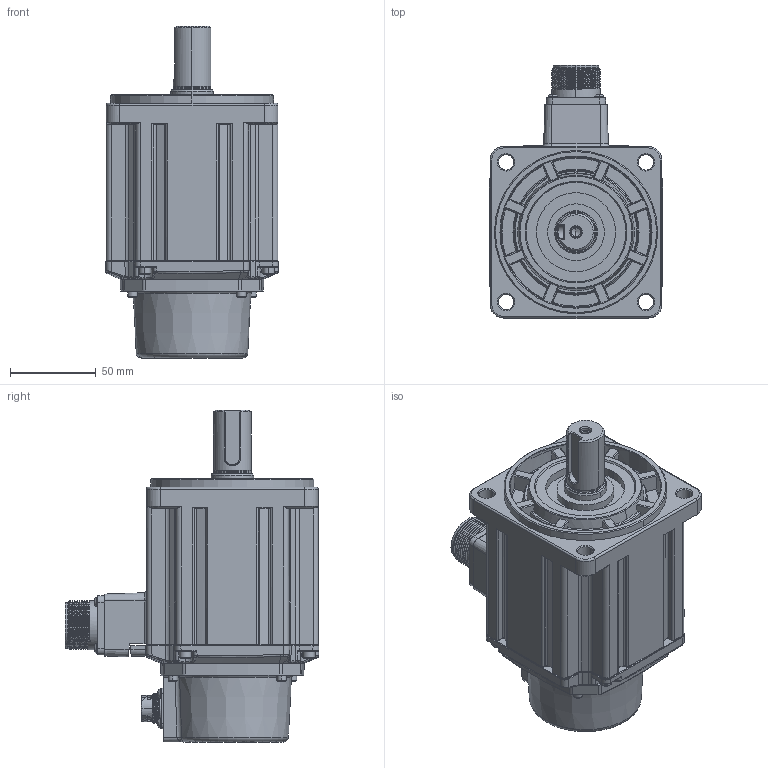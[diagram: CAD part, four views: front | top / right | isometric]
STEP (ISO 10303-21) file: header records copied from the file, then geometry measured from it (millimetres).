
FILE_DESCRIPTION((''),'2;1');
FILE_NAME('ECM-B3M-XB1010RS1_20241017_ASM','2024-12-27T20:08:53',('HUICHUN.CHU'),(''),'CREO PARAMETRIC BY PTC INC, 2020454','CREO PARAMETRIC BY PTC INC, 2020454','');
FILE_SCHEMA(('CONFIG_CONTROL_DESIGN','SHAPE_APPEARANCE_LAYERS_GROUPS'));
Products named in the file (2): _ECM-B3M-XB1010RS1_20241017; ECM-B3M-XB1010RS1_20241017_ASM
Assembly tree (1 placements, depth 2):
  ECM-B3M-XB1010RS1_20241017_ASM
    _ECM-B3M-XB1010RS1_20241017
Bounding box: 100.74 x 147.77 x 193.3 mm (x, y, z)
Volume: 6826.4 mm3; surface area: 151816 mm2
Topology: 11 solids, 46 shells, 4852 faces, 13898 edges, 8940 vertices
Faces by surface type: plane 2930, cylinder 1011, cone 446, bspline 148, torus 136, sphere 106, extrusion 75
Entity records: 196000 total; most frequent: CARTESIAN_POINT 44851, ORIENTED_EDGE 26236, DIRECTION 24471, EDGE_CURVE 13776, VERTEX_POINT 8938, VECTOR 8861, LINE 8786, PRESENTATION_STYLE_ASSIGNMENT 7867
